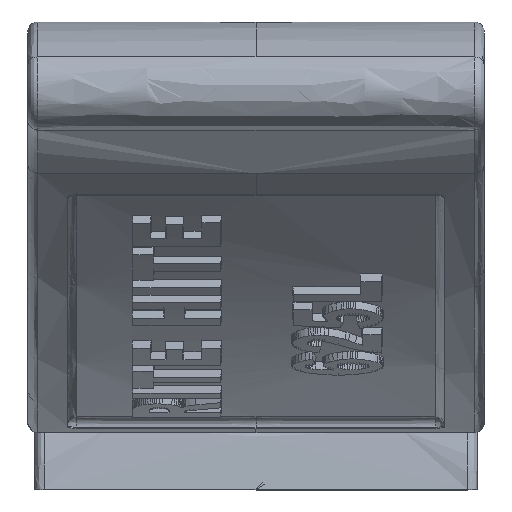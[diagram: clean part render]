
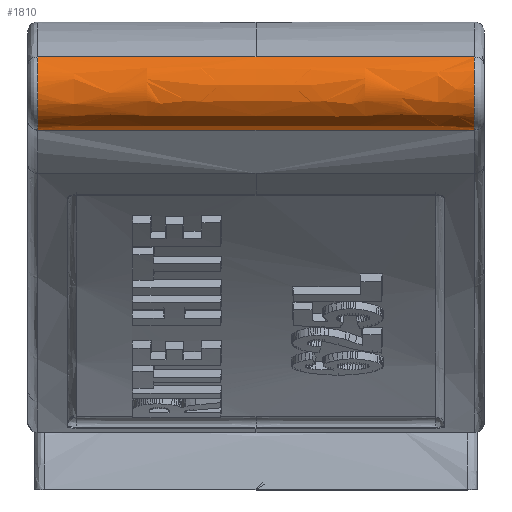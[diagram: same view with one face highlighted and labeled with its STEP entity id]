
A CAD part, top view. The second image highlights one B-rep face of the part: STEP entity #1810.
In plain terms, the highlighted free-form (B-spline) face has degree [2, 1] with [5, 2] control points.
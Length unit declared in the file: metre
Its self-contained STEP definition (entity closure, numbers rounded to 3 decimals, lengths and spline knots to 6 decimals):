
#1810 = ADVANCED_FACE( '', ( #3723 ), #3724, .T. );
#3723 = FACE_OUTER_BOUND( '', #11385, .T. );
#3724 = ( BOUNDED_SURFACE(  )B_SPLINE_SURFACE( 2, 1, ( ( #11388, #11389 ), ( #11390, #11391 ), ( #11392, #11393 ), ( #11394, #11395 ), ( #11396, #11397 ) ), .UNSPECIFIED., .F., .F., .F. )B_SPLINE_SURFACE_WITH_KNOTS( ( 3, 2, 3 ), ( 2, 2 ), ( 0., 0.25, 0.403572 ), ( 0.01732, 0.98268 ), .UNSPECIFIED. )GEOMETRIC_REPRESENTATION_ITEM(  )RATIONAL_B_SPLINE_SURFACE( ( ( 1., 1. ), ( 0.707, 0.707 ), ( 1., 1. ), ( 0.82, 0.82 ), ( 0.861, 0.861 ) ) )REPRESENTATION_ITEM( '' )SURFACE(  ) );
#11385 = EDGE_LOOP( '', ( #16240, #16241, #16242, #16243, #16244 ) );
#11388 = CARTESIAN_POINT( '', ( 0.022203, 0.036066, 0.102102 ) );
#11389 = CARTESIAN_POINT( '', ( -0.022203, 0.036066, 0.102102 ) );
#11390 = CARTESIAN_POINT( '', ( 0.022203, 0.036168, 0.106101 ) );
#11391 = CARTESIAN_POINT( '', ( -0.022203, 0.036168, 0.106101 ) );
#11392 = CARTESIAN_POINT( '', ( 0.022203, 0.040166, 0.105999 ) );
#11393 = CARTESIAN_POINT( '', ( -0.022203, 0.040166, 0.105999 ) );
#11394 = CARTESIAN_POINT( '', ( 0.022203, 0.042284, 0.105945 ) );
#11395 = CARTESIAN_POINT( '', ( -0.022203, 0.042284, 0.105945 ) );
#11396 = CARTESIAN_POINT( '', ( 0.022203, 0.04343, 0.104162 ) );
#11397 = CARTESIAN_POINT( '', ( -0.022203, 0.04343, 0.104162 ) );
#16240 = ORIENTED_EDGE( '', *, *, #18984, .T. );
#16241 = ORIENTED_EDGE( '', *, *, #16696, .T. );
#16242 = ORIENTED_EDGE( '', *, *, #18262, .F. );
#16243 = ORIENTED_EDGE( '', *, *, #18564, .T. );
#16244 = ORIENTED_EDGE( '', *, *, #18923, .T. );
#16696 = EDGE_CURVE( '', #19142, #19148, #19150, .T. );
#18262 = EDGE_CURVE( '', #20258, #19148, #21700, .T. );
#18564 = EDGE_CURVE( '', #20258, #22091, #22093, .T. );
#18923 = EDGE_CURVE( '', #22091, #19311, #22518, .T. );
#18984 = EDGE_CURVE( '', #19311, #19142, #22583, .T. );
#19142 = VERTEX_POINT( '', #22830 );
#19148 = VERTEX_POINT( '', #22861 );
#19150 = B_SPLINE_CURVE_WITH_KNOTS( '', 1, ( #22879, #22880 ), .UNSPECIFIED., .F., .F., ( 2, 2 ), ( 0.021739, 0.978261 ), .UNSPECIFIED. );
#19311 = VERTEX_POINT( '', #23306 );
#20258 = VERTEX_POINT( '', #27130 );
#21700 = ( BOUNDED_CURVE(  )B_SPLINE_CURVE( 2, ( #32460, #32461, #32462, #32463, #32464 ), .UNSPECIFIED., .F., .F. )B_SPLINE_CURVE_WITH_KNOTS( ( 3, 2, 3 ), ( 0., 0.5, 1. ), .UNSPECIFIED. )CURVE(  )GEOMETRIC_REPRESENTATION_ITEM(  )RATIONAL_B_SPLINE_CURVE( ( 1., 0.804, 1., 0.804, 1. ) )REPRESENTATION_ITEM( '' ) );
#22091 = VERTEX_POINT( '', #34115 );
#22093 = ( BOUNDED_CURVE(  )B_SPLINE_CURVE( 1, ( #34128, #34129 ), .UNSPECIFIED., .F., .F. )B_SPLINE_CURVE_WITH_KNOTS( ( 2, 2 ), ( 0.043478, 1. ), .UNSPECIFIED. )CURVE(  )GEOMETRIC_REPRESENTATION_ITEM(  )RATIONAL_B_SPLINE_CURVE( ( 0.861, 0.861 ) )REPRESENTATION_ITEM( '' ) );
#22518 = ( BOUNDED_CURVE(  )B_SPLINE_CURVE( 1, ( #35997, #35998 ), .UNSPECIFIED., .F., .F. )B_SPLINE_CURVE_WITH_KNOTS( ( 2, 2 ), ( 0., 0.956522 ), .UNSPECIFIED. )CURVE(  )GEOMETRIC_REPRESENTATION_ITEM(  )RATIONAL_B_SPLINE_CURVE( ( 0.861, 0.861 ) )REPRESENTATION_ITEM( '' ) );
#22583 = ( BOUNDED_CURVE(  )B_SPLINE_CURVE( 2, ( #36248, #36249, #36250, #36251, #36252 ), .UNSPECIFIED., .F., .F. )B_SPLINE_CURVE_WITH_KNOTS( ( 3, 2, 3 ), ( 0., 0.380532, 1. ), .UNSPECIFIED. )CURVE(  )GEOMETRIC_REPRESENTATION_ITEM(  )RATIONAL_B_SPLINE_CURVE( ( 0.861, 0.82, 1., 0.707, 1. ) )REPRESENTATION_ITEM( '' ) );
#22830 = CARTESIAN_POINT( '', ( -0.022, 0.036066, 0.102102 ) );
#22861 = CARTESIAN_POINT( '', ( 0.022, 0.036066, 0.102102 ) );
#22879 = CARTESIAN_POINT( '', ( -0.022, 0.036066, 0.102102 ) );
#22880 = CARTESIAN_POINT( '', ( 0.022, 0.036066, 0.102102 ) );
#23306 = CARTESIAN_POINT( '', ( -0.022, 0.04343, 0.104162 ) );
#27130 = CARTESIAN_POINT( '', ( 0.022, 0.04343, 0.104162 ) );
#32460 = CARTESIAN_POINT( '', ( 0.022, 0.04343, 0.104162 ) );
#32461 = CARTESIAN_POINT( '', ( 0.022, 0.041832, 0.106648 ) );
#32462 = CARTESIAN_POINT( '', ( 0.022, 0.038987, 0.105852 ) );
#32463 = CARTESIAN_POINT( '', ( 0.022, 0.036141, 0.105056 ) );
#32464 = CARTESIAN_POINT( '', ( 0.022, 0.036066, 0.102102 ) );
#34115 = CARTESIAN_POINT( '', ( 0., 0.04343, 0.104162 ) );
#34128 = CARTESIAN_POINT( '', ( 0.022, 0.04343, 0.104162 ) );
#34129 = CARTESIAN_POINT( '', ( 0., 0.04343, 0.104162 ) );
#35997 = CARTESIAN_POINT( '', ( 0., 0.04343, 0.104162 ) );
#35998 = CARTESIAN_POINT( '', ( -0.022, 0.04343, 0.104162 ) );
#36248 = CARTESIAN_POINT( '', ( -0.022, 0.04343, 0.104162 ) );
#36249 = CARTESIAN_POINT( '', ( -0.022, 0.042284, 0.105945 ) );
#36250 = CARTESIAN_POINT( '', ( -0.022, 0.040166, 0.105999 ) );
#36251 = CARTESIAN_POINT( '', ( -0.022, 0.036168, 0.106101 ) );
#36252 = CARTESIAN_POINT( '', ( -0.022, 0.036066, 0.102102 ) );
